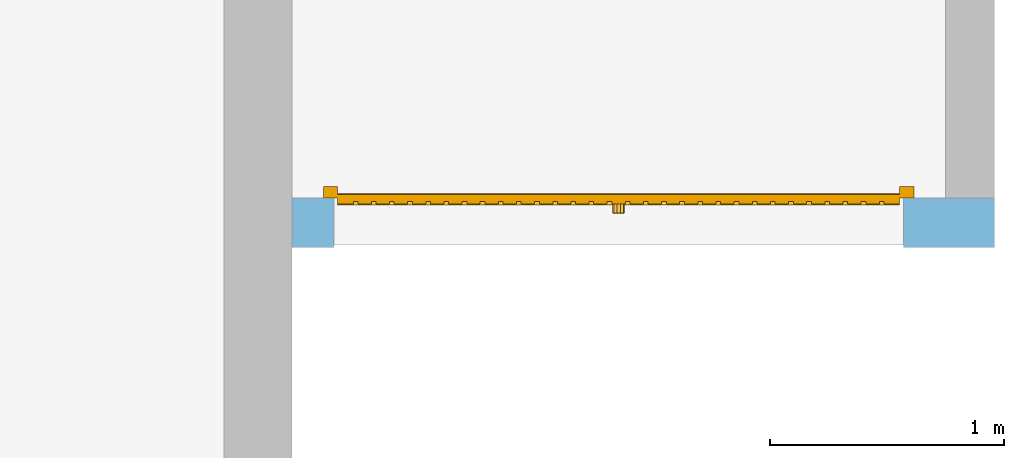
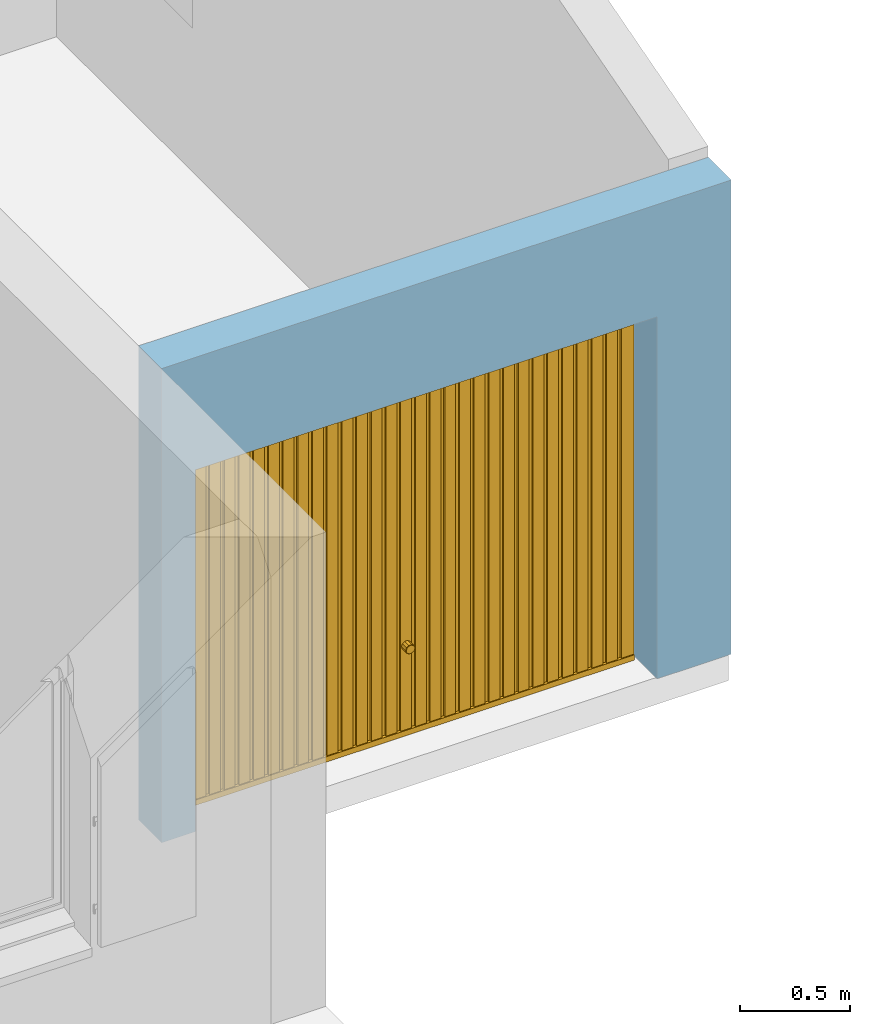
# One storey, part 5 of 6: 1 door, 1 opening, plus 1 element that does not belong to this part.
"""IFC2X3 building model written with IfcOpenShell, lengths in metres."""

import ifcopenshell
import ifcopenshell.guid

model = None  # the IFC model being written
_history = None  # IfcOwnerHistory: only IFC2X3 demands one
_inside = {}  # id of a spatial element -> (the spatial element, [elements in it])
_under = {}  # id of a project, library or spatial element -> (it, [spatial elements below it])
_declared = {}  # id of a project -> (the project, [libraries it declares])
_typed = {}  # id of a type object -> (the type object, [elements of that type])
_made_of = {}  # id of a material, layer set ... -> (it, [elements and type objects made of it])


def new_model(schema):
    """Start an empty IFC model of exactly this schema.

    Asked for "IFC4X3", IfcOpenShell would pick the latest addendum, in which some entities
    have other attributes; the version numbers below select the first issue.
    IFC2X3 requires an IfcOwnerHistory on every rooted entity: one is made here for all.
    """
    global model, _history
    if schema == "IFC4X3":
        model = ifcopenshell.file(schema_version=(4, 3, 0, 0))
    else:
        model = ifcopenshell.file(schema=schema)
    _inside.clear()
    _under.clear()
    _declared.clear()
    _typed.clear()
    _made_of.clear()
    _history = None
    if model.schema == "IFC2X3":
        org = make("IfcOrganization", Name="unknown")
        user = make(
            "IfcPersonAndOrganization",
            ThePerson=make("IfcPerson", FamilyName="unknown"),
            TheOrganization=org,
        )
        app = make(
            "IfcApplication",
            ApplicationDeveloper=org,
            Version="unknown",
            ApplicationFullName="unknown",
            ApplicationIdentifier="unknown",
        )
        _history = make(
            "IfcOwnerHistory",
            OwningUser=user,
            OwningApplication=app,
            ChangeAction="ADDED",
            CreationDate=0,
        )
    return model


def make(cls, **values):
    """One entity of the class cls with the attributes given. An attribute that is None is left unset."""
    return model.create_entity(
        cls, **{name: value for name, value in values.items() if value is not None}
    )


def entity(cls, *values):
    """Any entity or typed value of the class cls, its attributes in the order of the schema. None: left unset."""
    e = model.create_entity(cls)
    for i, value in enumerate(values):
        if value is not None:
            e[i] = value
    return e


def rooted(cls, **values):
    """An entity with a GlobalId (a new one), such as an element, a storey or a relation."""
    return make(cls, GlobalId=ifcopenshell.guid.new(), OwnerHistory=_history, **values)


def si_unit(unit_type, name, prefix=None):
    """IfcSIUnit, for example si_unit("LENGTHUNIT", "METRE", prefix="MILLI")."""
    return make("IfcSIUnit", UnitType=unit_type, Prefix=prefix, Name=name)


def converted_unit(unit_type, name, factor, base, dimensions=None, offset=None):
    """IfcConversionBasedUnit, such as the inch: factor (a typed value) times the base unit."""
    return make(
        "IfcConversionBasedUnit"
        if offset is None
        else "IfcConversionBasedUnitWithOffset",
        ConversionOffset=offset,
        Dimensions=None
        if dimensions is None
        else entity("IfcDimensionalExponents", *dimensions),
        UnitType=unit_type,
        Name=name,
        ConversionFactor=make(
            "IfcMeasureWithUnit", ValueComponent=factor, UnitComponent=base
        ),
    )


def derived_unit(unit_type, elements):
    """IfcDerivedUnit: a product of units, each with its exponent."""
    return make(
        "IfcDerivedUnit",
        Elements=[
            make("IfcDerivedUnitElement", Unit=unit, Exponent=power)
            for unit, power in elements
        ],
        UnitType=unit_type,
    )


def assignment(units):
    """IfcUnitAssignment: the units of a project."""
    return None if units is None else make("IfcUnitAssignment", Units=units)


def point(xyz):
    """IfcCartesianPoint."""
    return None if xyz is None else make("IfcCartesianPoint", Coordinates=xyz)


def direction(xyz):
    """IfcDirection."""
    return None if xyz is None else make("IfcDirection", DirectionRatios=xyz)


def frame(location, z_axis=None, x_axis=None):
    """IfcAxis2Placement3D, a coordinate frame: its origin and axes. An axis left out is left unset."""
    return make(
        "IfcAxis2Placement3D",
        Location=point(location),
        Axis=direction(z_axis),
        RefDirection=direction(x_axis),
    )


def frame_2d(location, x_axis=None):
    """IfcAxis2Placement2D, a coordinate frame in the plane: its origin and x axis."""
    return make(
        "IfcAxis2Placement2D", Location=point(location), RefDirection=direction(x_axis)
    )


def origin():
    """The frame at (0, 0, 0) with its axes left unset."""
    return frame((0.0, 0.0, 0.0))


def place(relative_to, where):
    """IfcLocalPlacement: puts the frame where relative to a parent placement (None: the world)."""
    return make(
        "IfcLocalPlacement", PlacementRelTo=relative_to, RelativePlacement=where
    )


def context(
    kind, dimensions, precision=None, world=None, true_north=None, identifier=None
):
    """IfcGeometricRepresentationContext, for example the 3D "Model" context."""
    return make(
        "IfcGeometricRepresentationContext",
        ContextIdentifier=identifier,
        ContextType=kind,
        CoordinateSpaceDimension=dimensions,
        Precision=precision,
        WorldCoordinateSystem=world,
        TrueNorth=true_north,
    )


def subcontext(parent, identifier, kind, view, scale=None):
    """IfcGeometricRepresentationSubContext, for example "Body" below "Model"."""
    return make(
        "IfcGeometricRepresentationSubContext",
        ContextIdentifier=identifier,
        ContextType=kind,
        ParentContext=parent,
        TargetScale=scale,
        TargetView=view,
    )


def project(units=None, contexts=None):
    """IfcProject with its units and contexts."""
    return rooted(
        "IfcProject",
        Name="project",
        RepresentationContexts=contexts,
        UnitsInContext=assignment(units),
    )


def spatial(cls, under=None, at=None, **own):
    """A site, building, storey or space (cls), placed at a placement, below another one or the project."""
    s = rooted(cls, ObjectPlacement=at, **own)
    if under is not None:
        _under.setdefault(under.id(), (under, []))[1].append(s)
    return s


def profile(cls, at=None, kind="AREA", **sizes):
    """A parametric profile (cls). Its sizes go by their IFC names, for example OverallWidth=200.0."""
    return make(cls, ProfileType=kind, Position=at, **sizes)


def rectangle(**sizes):
    """IfcRectangleProfileDef."""
    return profile("IfcRectangleProfileDef", **sizes)


def extrude(swept, where, along, depth):
    """IfcExtrudedAreaSolid: the profile swept, set in the frame where, extruded along a direction by depth."""
    return make(
        "IfcExtrudedAreaSolid",
        SweptArea=swept,
        Position=where,
        ExtrudedDirection=direction(along),
        Depth=depth,
    )


def faces_of(points, faces, orient=None, outer=None):
    """IfcFace entities. A face is a list of loops; a loop is a list of indices into points, from 0.

    orient and outer hold one flag for each loop. By default every Orientation is true, the
    first loop of a face is its IfcFaceOuterBound and the others are IfcFaceBound.
    """
    made = []
    for i, loops in enumerate(faces):
        bounds = []
        for j, loop in enumerate(loops):
            is_outer = j == 0 if outer is None else outer[i][j]
            bounds.append(
                make(
                    "IfcFaceOuterBound" if is_outer else "IfcFaceBound",
                    Bound=make("IfcPolyLoop", Polygon=[points[k] for k in loop]),
                    Orientation=True if orient is None else orient[i][j],
                )
            )
        made.append(make("IfcFace", Bounds=bounds))
    return made


def faceted_brep(points, faces, orient=None, outer=None, voids=None):
    """IfcFacetedBrep: a solid bounded by flat faces; with voids (closed shells), ...WithVoids."""
    shared = [point(p) for p in points]
    hull = make("IfcClosedShell", CfsFaces=faces_of(shared, faces, orient, outer))
    if voids is None:
        return make("IfcFacetedBrep", Outer=hull)
    return make(
        "IfcFacetedBrepWithVoids",
        Outer=hull,
        Voids=[
            make(cls, CfsFaces=faces_of(shared, fs, o, b)) for cls, fs, o, b in voids
        ],
    )


def shape(context_of_items, identifier, shape_type, items):
    """IfcShapeRepresentation: the items that make up one representation, for example the "Body"."""
    return make(
        "IfcShapeRepresentation",
        ContextOfItems=context_of_items,
        RepresentationIdentifier=identifier,
        RepresentationType=shape_type,
        Items=items,
    )


def source(mapping_origin, context_of_items, identifier, shape_type, items):
    """IfcRepresentationMap: a shape defined once, which mapped items show again and again."""
    return make(
        "IfcRepresentationMap",
        MappingOrigin=mapping_origin,
        MappedRepresentation=shape(context_of_items, identifier, shape_type, items),
    )


def transform(
    local_origin,
    x_axis=None,
    y_axis=None,
    z_axis=None,
    scale=None,
    scale2=None,
    scale3=None,
    uniform=True,
):
    """IfcCartesianTransformationOperator3D, or its non-uniform kind. x_axis, y_axis, z_axis: its Axis1, 2, 3."""
    if uniform:
        return make(
            "IfcCartesianTransformationOperator3D",
            Axis1=direction(x_axis),
            Axis2=direction(y_axis),
            LocalOrigin=point(local_origin),
            Scale=scale,
            Axis3=direction(z_axis),
        )
    return make(
        "IfcCartesianTransformationOperator3DnonUniform",
        Axis1=direction(x_axis),
        Axis2=direction(y_axis),
        LocalOrigin=point(local_origin),
        Scale=scale,
        Axis3=direction(z_axis),
        Scale2=scale2,
        Scale3=scale3,
    )


def mapped(mapping_source, mapping_target):
    """IfcMappedItem: shows the shape of a source again, moved by a transform."""
    return make(
        "IfcMappedItem", MappingSource=mapping_source, MappingTarget=mapping_target
    )


def material(Name=None, Category=None):
    """IfcMaterial."""
    return make("IfcMaterial", Name=Name, Category=Category)


def material_list(materials):
    """IfcMaterialList."""
    return make("IfcMaterialList", Materials=materials)


def layer(
    of_material, thickness, ventilated=None, Name=None, Category=None, Priority=None
):
    """IfcMaterialLayer: one layer of a wall or slab, of a material (None: an air gap)."""
    return make(
        "IfcMaterialLayer",
        Material=of_material,
        LayerThickness=thickness,
        IsVentilated=ventilated,
        Name=Name,
        Category=Category,
        Priority=Priority,
    )


def layer_set(layers, Name=None):
    """IfcMaterialLayerSet."""
    return make("IfcMaterialLayerSet", MaterialLayers=layers, LayerSetName=Name)


def layer_usage(for_layer_set, set_direction, sense, offset, extent=None):
    """IfcMaterialLayerSetUsage: how a layer set lies in its element."""
    return make(
        "IfcMaterialLayerSetUsage",
        ForLayerSet=for_layer_set,
        LayerSetDirection=set_direction,
        DirectionSense=sense,
        OffsetFromReferenceLine=offset,
        ReferenceExtent=extent,
    )


def made_of(thing, what):
    """Note that an element or type object is made of a material, layer set ...; save() writes the relation."""
    if what is not None:
        _made_of.setdefault(what.id(), (what, []))[1].append(thing)
    return thing


def type_object(cls, material=None, **own):
    """A type object (cls), such as IfcWallType, which elements share."""
    return made_of(rooted(cls, **own), material)


def type_shapes(of_type, sources):
    """Give a type object the sources (RepresentationMaps) that its elements show as mapped items."""
    of_type.RepresentationMaps = sources


def element(
    cls,
    number,
    at=None,
    inside=None,
    cuts=None,
    type_object=None,
    material=None,
    context=None,
    identifier="Body",
    shape_type=None,
    held_by="IfcProductDefinitionShape",
    body=None,
    shapes=None,
    **own,
):
    """One element of the class cls, such as IfcWall. Its Tag is "e" and its number.

    at: its placement. inside: the storey or other place that contains it. cuts: it is an
    opening in that element (IfcRelVoidsElement). A single representation is given by context,
    identifier, shape_type and body (its items); several are given by shapes. held_by: the class
    of the entity that holds the representations. save() writes the other relations.
    """
    e = rooted(cls, Tag="e%d" % number, ObjectPlacement=at, **own)
    if body is not None:
        shapes = [shape(context, identifier, shape_type, body)]
    if shapes is not None:
        e.Representation = make(held_by, Representations=shapes)
    if inside is not None:
        _inside.setdefault(inside.id(), (inside, []))[1].append(e)
    if cuts is not None:
        rooted(
            "IfcRelVoidsElement", RelatingBuildingElement=cuts, RelatedOpeningElement=e
        )
    if type_object is not None:
        _typed.setdefault(type_object.id(), (type_object, []))[1].append(e)
    return made_of(e, material)


def fill(opening, filler):
    """IfcRelFillsElement: the door or window that sits in an opening."""
    return rooted(
        "IfcRelFillsElement",
        RelatingOpeningElement=opening,
        RelatedBuildingElement=filler,
    )


def aggregate(whole, parts):
    """IfcRelAggregates: a whole, such as a stair, and the parts it consists of."""
    return rooted("IfcRelAggregates", RelatingObject=whole, RelatedObjects=parts)


def save(model, path):
    """Write the relations noted so far, then the file.

    IfcRelAggregates (storeys below a building ...), IfcRelContainedInSpatialStructure (elements
    in a storey), IfcRelDefinesByType, IfcRelAssociatesMaterial and IfcRelDeclares: one each for
    every whole, place, type object, material and project.
    """
    for whole, parts in _under.values():
        aggregate(whole, parts)
    for where, things in _inside.values():
        rooted(
            "IfcRelContainedInSpatialStructure",
            RelatedElements=things,
            RelatingStructure=where,
        )
    for kind, things in _typed.values():
        rooted("IfcRelDefinesByType", RelatedObjects=things, RelatingType=kind)
    for what, things in _made_of.values():
        rooted("IfcRelAssociatesMaterial", RelatedObjects=things, RelatingMaterial=what)
    for by, libraries in _declared.values():
        rooted("IfcRelDeclares", RelatingContext=by, RelatedDefinitions=libraries)
    model.write(path)


model = new_model("IFC2X3")

# Units and contexts
model_context = context("Model", 3, precision=1e-05, world=origin(), true_north=direction((6.12303176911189e-17, 1.0)))
context_of_model = context(None, 3, precision=1e-05, world=origin(), true_north=direction((6.12303176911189e-17, 1.0)))
body_context = subcontext(model_context, "Body", "Model", "MODEL_VIEW")
ifc_project = project(units=[si_unit("LENGTHUNIT", "METRE"), si_unit("AREAUNIT", "SQUARE_METRE"), si_unit("VOLUMEUNIT", "CUBIC_METRE"), converted_unit("PLANEANGLEUNIT", "DEGREE", entity("IfcRatioMeasure", 0.0174532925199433), si_unit("PLANEANGLEUNIT", "RADIAN"), dimensions=[0, 0, 0, 0, 0, 0, 0]), si_unit("MASSUNIT", "GRAM", prefix="KILO"), si_unit("TIMEUNIT", "SECOND"), si_unit("FREQUENCYUNIT", "HERTZ"), si_unit("THERMODYNAMICTEMPERATUREUNIT", "DEGREE_CELSIUS"), derived_unit("THERMALTRANSMITTANCEUNIT", [(si_unit("MASSUNIT", "GRAM", prefix="KILO"), 1), (si_unit("THERMODYNAMICTEMPERATUREUNIT", "KELVIN"), -1), (si_unit("TIMEUNIT", "SECOND"), -3)]), derived_unit("VOLUMETRICFLOWRATEUNIT", [(si_unit("LENGTHUNIT", "METRE"), 3), (si_unit("TIMEUNIT", "SECOND"), -1)]), si_unit("ELECTRICCURRENTUNIT", "AMPERE"), si_unit("ELECTRICVOLTAGEUNIT", "VOLT"), si_unit("POWERUNIT", "WATT"), si_unit("FORCEUNIT", "NEWTON", prefix="KILO"), si_unit("ILLUMINANCEUNIT", "LUX"), si_unit("LUMINOUSFLUXUNIT", "LUMEN"), si_unit("LUMINOUSINTENSITYUNIT", "CANDELA"), si_unit("PRESSUREUNIT", "PASCAL")], contexts=[model_context, context_of_model])

# Site, building, storey
site_placement = place(None, origin())
site = spatial("IfcSite", under=ifc_project, at=site_placement, Name="Surface", CompositionType="ELEMENT")
building_placement = place(site_placement, origin())
building = spatial("IfcBuilding", under=site, at=building_placement, CompositionType="ELEMENT")
storey_placement = place(building_placement, origin())
storey = spatial("IfcBuildingStorey", under=building, at=storey_placement, Name="Niveau 0", CompositionType="ELEMENT", Elevation=-1.94916083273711e-14)

# Wall, opening, door
ifc_material_1 = material(Name="Maçonnerie - Enduit")
ifc_layer_1 = layer(ifc_material_1, 0.01)
ifc_material_2 = material(Name="Eléments de maçonnerie en béton")
ifc_layer_2 = layer(ifc_material_2, 0.2)
ifc_layer_set = layer_set([ifc_layer_1, ifc_layer_2], Name="Mur de base:Ext. Parpaing 20")
ifc_layer_usage = layer_usage(ifc_layer_set, "AXIS2", "POSITIVE", -0.105)
wall_type = type_object("IfcWallType", Name="Mur de base:Ext. Parpaing 20", PredefinedType="STANDARD", material=ifc_layer_set)
wall_placement = place(storey_placement, frame((-2.79909160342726, -5.75358265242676, 0.0)))
wall = element("IfcWallStandardCase", 1, at=wall_placement, inside=storey, type_object=wall_type, material=ifc_layer_usage, Name="Mur de base:Ext. Parpaing 20", ObjectType="Mur de base:Ext. Parpaing 20", context=body_context, shape_type="SweptSolid", body=[
    extrude(rectangle(XDim=2.99999999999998, YDim=0.21, at=frame_2d((1.49999999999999, 0.0), x_axis=(-1.0, 0.0))), origin(), (0.0, 0.0, 1.0), 2.64000000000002),
])
opening_placement = place(wall_placement, frame((0.179999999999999, -0.405000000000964, 0.0)))
opening = element("IfcOpeningElement", 2, at=opening_placement, cuts=wall, Name="Mur de base:Ext. Parpaing 20", ObjectType="Opening", context=body_context, shape_type="SweptSolid", body=[
    extrude(rectangle(XDim=2.01500000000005, YDim=2.42999999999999, at=frame_2d((0.0, -3.33066907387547e-16), x_axis=(1.0, 0.0))), frame((1.215, 0.0, 1.00750000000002), z_axis=(0.0, 1.0, 0.0), x_axis=(0.0, 0.0, -1.0)), (0.0, 0.0, 1.0), 0.810000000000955),
])
ifc_material_3 = material(Name="Plastique - Noir")
ifc_material_4 = material(Name="Peinture - Grise")
ifc_material_list_1 = material_list([ifc_material_3, ifc_material_4])
ifc_material_list_2 = material_list([ifc_material_3, ifc_material_4])
door_style = type_object("IfcDoorStyle", Name="2.4m x 2m", ConstructionType="NOTDEFINED", OperationType="ROLLINGUP", ParameterTakesPrecedence=False, Sizeable=False, material=ifc_material_list_2)
shared_shape = source(origin(), body_context, "Body", "Brep", [
    faceted_brep([(1.19323441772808, 0.362902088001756, 0.490045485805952), (1.19238728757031, 0.362902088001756, 0.492652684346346), (1.19169426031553, 0.362902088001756, 0.494785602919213), (1.19, 0.362902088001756, 0.500000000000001), (1.19209791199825, 0.365000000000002, 0.500000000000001), (1.19428486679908, 0.365000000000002, 0.493269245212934), (1.19647182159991, 0.365000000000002, 0.486538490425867), (1.19477457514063, 0.362902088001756, 0.485305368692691), (1.23493909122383, 0.365000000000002, 0.490880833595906), (1.23635000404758, 0.365000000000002, 0.495223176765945), (1.23790208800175, 0.365000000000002, 0.500000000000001), (1.24, 0.362902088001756, 0.500000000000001), (1.23761271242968, 0.362902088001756, 0.492652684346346), (1.23522542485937, 0.362902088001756, 0.485305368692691), (1.23352817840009, 0.365000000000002, 0.486538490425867), (1.22897542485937, 0.362902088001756, 0.480764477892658), (1.22272542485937, 0.362902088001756, 0.476223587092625), (1.22207713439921, 0.365000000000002, 0.478218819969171), (1.22780265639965, 0.365000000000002, 0.482378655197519), (1.20792286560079, 0.365000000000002, 0.478218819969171), (1.215, 0.365000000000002, 0.478218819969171), (1.215, 0.362902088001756, 0.476223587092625), (1.20727457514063, 0.362902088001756, 0.476223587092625), (1.20102457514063, 0.362902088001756, 0.480764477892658), (1.20219734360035, 0.365000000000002, 0.482378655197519), (1.23676558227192, 0.362902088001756, 0.509954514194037), (1.23761271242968, 0.362902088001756, 0.507347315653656), (1.23830573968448, 0.362902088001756, 0.505214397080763), (1.23571513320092, 0.365000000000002, 0.506730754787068), (1.23352817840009, 0.365000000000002, 0.513461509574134), (1.23522542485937, 0.362902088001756, 0.514694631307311), (1.19506090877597, 0.365000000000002, 0.5091191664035), (1.19364999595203, 0.365000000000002, 0.504776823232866), (1.19238728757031, 0.362902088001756, 0.507347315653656), (1.19477457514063, 0.362902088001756, 0.514694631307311), (1.19647182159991, 0.365000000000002, 0.513461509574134), (1.20102457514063, 0.362902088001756, 0.519235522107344), (1.20727457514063, 0.362902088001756, 0.523776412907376), (1.20792286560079, 0.365000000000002, 0.521781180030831), (1.20219734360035, 0.365000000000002, 0.517621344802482), (1.22207713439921, 0.365000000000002, 0.521781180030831), (1.215, 0.365000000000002, 0.521781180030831), (1.215, 0.362902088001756, 0.523776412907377), (1.22272542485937, 0.362902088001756, 0.523776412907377), (1.22897542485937, 0.362902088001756, 0.519235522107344), (1.22780265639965, 0.365000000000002, 0.517621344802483), (1.215, 0.365000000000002, 0.500000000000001), (1.215, 0.325000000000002, 0.500000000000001), (1.19477457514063, 0.325000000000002, 0.485305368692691), (1.20102457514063, 0.325000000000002, 0.480764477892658), (1.20727457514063, 0.325000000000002, 0.476223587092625), (1.215, 0.325000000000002, 0.476223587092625), (1.19305454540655, 0.325000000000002, 0.490599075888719), (1.19152727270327, 0.325000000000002, 0.49529953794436), (1.19, 0.325000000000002, 0.500000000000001), (1.22272542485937, 0.325000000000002, 0.476223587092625), (1.22897542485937, 0.325000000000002, 0.480764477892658), (1.23522542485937, 0.325000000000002, 0.485305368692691), (1.23761271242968, 0.325000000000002, 0.492652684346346), (1.24, 0.325000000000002, 0.500000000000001), (1.23847272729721, 0.325000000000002, 0.50470046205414), (1.19238728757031, 0.325000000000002, 0.507347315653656), (1.19477457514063, 0.325000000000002, 0.514694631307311), (1.20102457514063, 0.325000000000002, 0.519235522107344), (1.20727457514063, 0.325000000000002, 0.523776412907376), (1.23694545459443, 0.325000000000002, 0.509400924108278), (1.23522542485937, 0.325000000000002, 0.514694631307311), (1.22897542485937, 0.325000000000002, 0.519235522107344), (1.22272542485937, 0.325000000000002, 0.523776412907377), (1.215, 0.325000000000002, 0.523776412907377)], [[[0, 1, 2, 3, 4, 5, 6, 7]], [[8, 9, 10, 11, 12, 13, 14]], [[13, 15, 16, 17, 18, 14]], [[19, 20, 17, 16, 21, 22]], [[22, 23, 7, 6, 24, 19]], [[25, 26, 27, 11, 10, 28, 29, 30]], [[31, 32, 4, 3, 33, 34, 35]], [[34, 36, 37, 38, 39, 35]], [[40, 41, 38, 37, 42, 43]], [[43, 44, 30, 29, 45, 40]], [[46, 19, 24]], [[46, 24, 6]], [[46, 6, 5]], [[46, 5, 4]], [[46, 4, 32]], [[46, 20, 19]], [[46, 17, 20]], [[46, 18, 17]], [[46, 14, 18]], [[46, 8, 14]], [[46, 9, 8]], [[46, 10, 9]], [[46, 32, 31]], [[46, 31, 35]], [[46, 35, 39]], [[46, 39, 38]], [[46, 38, 41]], [[46, 28, 10]], [[46, 29, 28]], [[46, 45, 29]], [[46, 40, 45]], [[46, 41, 40]], [[47, 48, 49]], [[47, 49, 50]], [[47, 50, 51]], [[47, 52, 48]], [[47, 53, 52]], [[47, 54, 53]], [[47, 51, 55]], [[47, 55, 56]], [[47, 56, 57]], [[47, 57, 58]], [[47, 58, 59]], [[47, 59, 60]], [[47, 61, 54]], [[47, 62, 61]], [[47, 63, 62]], [[47, 64, 63]], [[47, 60, 65]], [[47, 65, 66]], [[47, 66, 67]], [[47, 67, 68]], [[47, 68, 69]], [[47, 69, 64]], [[13, 57, 56, 55, 16, 15]], [[57, 13, 12, 11, 59, 58]], [[52, 53, 54, 3, 2, 1, 0, 7, 48]], [[21, 16, 55, 51, 50, 22]], [[50, 49, 48, 7, 23, 22]], [[62, 63, 64, 37, 36, 34]], [[33, 3, 54, 61, 62, 34]], [[65, 60, 59, 11, 27, 26, 25, 30, 66]], [[42, 37, 64, 69, 68, 43]], [[68, 67, 66, 30, 44, 43]]]),
    faceted_brep([(0.0149999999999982, 0.28000000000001, 2.0), (2.415, 0.279999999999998, 2.0), (2.415, 0.329999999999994, 2.0), (0.0149999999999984, 0.330000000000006, 2.0), (2.415, 0.279999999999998, 0.0), (0.0149999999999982, 0.28000000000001, 0.0), (0.015, 0.329999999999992, 0.0), (2.415, 0.329999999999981, 0.0), (2.34758064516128, 0.315000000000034, 1.97), (2.34758064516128, 0.315000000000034, 0.0300000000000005), (2.32758064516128, 0.315000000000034, 0.0300000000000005), (2.32758064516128, 0.315000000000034, 1.97), (2.32758064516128, 0.324999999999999, 0.0300000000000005), (2.32758064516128, 0.324999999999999, 1.97), (2.27016129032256, 0.324999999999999, 0.0300000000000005), (2.27016129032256, 0.324999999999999, 1.97), (2.27016129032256, 0.315000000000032, 0.0300000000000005), (2.27016129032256, 0.315000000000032, 1.97), (2.25016129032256, 0.315000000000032, 0.0300000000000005), (2.25016129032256, 0.315000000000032, 1.97), (2.25016129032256, 0.324999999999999, 0.0300000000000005), (2.25016129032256, 0.324999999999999, 1.97), (2.19274193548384, 0.324999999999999, 0.0300000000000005), (2.19274193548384, 0.324999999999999, 1.97), (2.19274193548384, 0.31500000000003, 0.0300000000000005), (2.19274193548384, 0.31500000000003, 1.97), (2.17274193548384, 0.31500000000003, 0.0300000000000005), (2.17274193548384, 0.31500000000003, 1.97), (2.17274193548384, 0.324999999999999, 0.0300000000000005), (2.17274193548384, 0.324999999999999, 1.97), (2.11532258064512, 0.324999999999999, 0.0300000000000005), (2.11532258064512, 0.324999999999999, 1.97), (2.11532258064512, 0.315000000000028, 0.0300000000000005), (2.11532258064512, 0.315000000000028, 1.97), (2.09532258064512, 0.315000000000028, 0.0300000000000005), (2.09532258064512, 0.315000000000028, 1.97), (2.09532258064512, 0.325, 0.0300000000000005), (2.09532258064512, 0.325, 1.97), (2.03790322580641, 0.325, 0.0300000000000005), (2.03790322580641, 0.325, 1.97), (2.03790322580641, 0.315000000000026, 0.0300000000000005), (2.03790322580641, 0.315000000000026, 1.97), (2.01790322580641, 0.315000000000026, 0.0300000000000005), (2.01790322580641, 0.315000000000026, 1.97), (2.01790322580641, 0.325, 0.0300000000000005), (2.01790322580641, 0.325, 1.97), (1.96048387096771, 0.325, 0.0300000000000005), (1.96048387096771, 0.325, 1.97), (1.96048387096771, 0.315000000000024, 0.0300000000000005), (1.96048387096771, 0.315000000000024, 1.97), (1.94048387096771, 0.315000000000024, 0.0300000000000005), (1.94048387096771, 0.315000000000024, 1.97), (1.94048387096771, 0.325, 0.0300000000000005), (1.94048387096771, 0.325, 1.97), (1.883064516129, 0.325, 0.0300000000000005), (1.883064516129, 0.325, 1.97), (1.883064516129, 0.315000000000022, 0.0300000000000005), (1.883064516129, 0.315000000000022, 1.97), (1.863064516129, 0.315000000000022, 0.0300000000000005), (1.863064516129, 0.315000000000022, 1.97), (1.863064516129, 0.325, 0.0300000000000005), (1.863064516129, 0.325, 1.97), (1.80564516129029, 0.325, 0.0300000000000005), (1.80564516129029, 0.325, 1.97), (1.80564516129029, 0.31500000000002, 0.0300000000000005), (1.80564516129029, 0.31500000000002, 1.97), (1.78564516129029, 0.31500000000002, 0.0300000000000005), (1.78564516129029, 0.31500000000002, 1.97), (1.78564516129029, 0.325000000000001, 0.0300000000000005), (1.78564516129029, 0.325, 1.97), (1.72822580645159, 0.325000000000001, 0.0300000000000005), (1.72822580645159, 0.325000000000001, 1.97), (1.72822580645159, 0.315000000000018, 0.0300000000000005), (1.72822580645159, 0.315000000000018, 1.97), (1.70822580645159, 0.315000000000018, 0.0300000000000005), (1.70822580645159, 0.315000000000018, 1.97), (1.70822580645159, 0.325000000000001, 0.0300000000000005), (1.70822580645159, 0.325000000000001, 1.97), (1.65080645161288, 0.325000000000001, 0.0300000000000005), (1.65080645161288, 0.325000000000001, 1.97), (1.65080645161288, 0.315000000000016, 0.0300000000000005), (1.65080645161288, 0.315000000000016, 1.97), (1.63080645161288, 0.315000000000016, 0.0300000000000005), (1.63080645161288, 0.315000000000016, 1.97), (1.63080645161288, 0.325000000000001, 0.0300000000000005), (1.63080645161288, 0.325000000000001, 1.97), (1.57338709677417, 0.325000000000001, 0.0300000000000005), (1.57338709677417, 0.325000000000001, 1.97), (1.57338709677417, 0.315000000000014, 0.0300000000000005), (1.57338709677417, 0.315000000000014, 1.97), (1.55338709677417, 0.315000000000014, 0.0300000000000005), (1.55338709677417, 0.315000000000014, 1.97), (1.55338709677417, 0.325000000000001, 0.0300000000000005), (1.55338709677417, 0.325000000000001, 1.97), (1.49596774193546, 0.325000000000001, 0.0300000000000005), (1.49596774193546, 0.325000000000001, 1.97), (1.49596774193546, 0.315000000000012, 0.0300000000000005), (1.49596774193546, 0.315000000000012, 1.97), (1.47596774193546, 0.315000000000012, 0.0300000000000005), (1.47596774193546, 0.315000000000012, 1.97), (1.47596774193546, 0.325000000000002, 0.0300000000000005), (1.47596774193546, 0.325000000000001, 1.97), (1.41854838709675, 0.325000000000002, 0.0300000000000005), (1.41854838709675, 0.325000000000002, 1.97), (1.41854838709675, 0.31500000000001, 0.0300000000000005), (1.41854838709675, 0.31500000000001, 1.97), (1.39854838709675, 0.31500000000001, 0.0300000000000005), (1.39854838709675, 0.31500000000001, 1.97), (1.39854838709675, 0.325000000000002, 0.0300000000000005), (1.39854838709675, 0.325000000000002, 1.97), (1.34112903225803, 0.325000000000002, 0.0300000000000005), (1.34112903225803, 0.325000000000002, 1.97), (1.34112903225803, 0.315000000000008, 0.0300000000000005), (1.34112903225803, 0.315000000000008, 1.97), (1.32112903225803, 0.315000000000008, 0.0300000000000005), (1.32112903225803, 0.315000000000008, 1.97), (1.32112903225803, 0.325000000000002, 0.0300000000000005), (1.32112903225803, 0.325000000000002, 1.97), (1.26370967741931, 0.325000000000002, 0.0300000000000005), (1.26370967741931, 0.325000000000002, 1.97), (1.26370967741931, 0.315000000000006, 0.0300000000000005), (1.26370967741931, 0.315000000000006, 1.97), (1.24370967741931, 0.315000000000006, 0.0300000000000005), (1.24370967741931, 0.315000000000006, 1.97), (1.24370967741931, 0.325000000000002, 0.0300000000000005), (1.24370967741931, 0.325000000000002, 1.97), (1.1862903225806, 0.325000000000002, 0.0300000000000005), (1.1862903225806, 0.325000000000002, 1.97), (1.1862903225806, 0.315000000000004, 0.0300000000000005), (1.1862903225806, 0.315000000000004, 1.97), (1.1662903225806, 0.315000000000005, 0.0300000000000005), (1.1662903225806, 0.315000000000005, 1.97), (1.1662903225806, 0.325000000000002, 0.0300000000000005), (1.1662903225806, 0.325000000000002, 1.97), (1.10887096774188, 0.325000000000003, 0.0300000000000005), (1.10887096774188, 0.325000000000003, 1.97), (1.10887096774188, 0.315000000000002, 0.0300000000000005), (1.10887096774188, 0.315000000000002, 1.97), (1.08887096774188, 0.315000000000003, 0.0300000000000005), (1.08887096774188, 0.315000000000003, 1.97), (1.08887096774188, 0.325000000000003, 0.0300000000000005), (1.08887096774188, 0.325000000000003, 1.97), (1.03145161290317, 0.325000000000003, 0.0300000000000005), (1.03145161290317, 0.325000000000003, 1.97), (1.03145161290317, 0.315, 0.0300000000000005), (1.03145161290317, 0.315, 1.97), (1.01145161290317, 0.315000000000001, 0.0300000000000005), (1.01145161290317, 0.315000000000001, 1.97), (1.01145161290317, 0.325000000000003, 0.0300000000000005), (1.01145161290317, 0.325000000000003, 1.97), (0.954032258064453, 0.325000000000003, 0.0300000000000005), (0.954032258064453, 0.325000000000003, 1.97), (0.954032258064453, 0.314999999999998, 0.0300000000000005), (0.954032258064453, 0.314999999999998, 1.97), (0.934032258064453, 0.314999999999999, 0.0300000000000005), (0.934032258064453, 0.314999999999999, 1.97), (0.934032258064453, 0.325000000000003, 0.0300000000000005), (0.934032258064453, 0.325000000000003, 1.97), (0.876612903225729, 0.325000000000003, 0.0300000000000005), (0.876612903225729, 0.325000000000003, 1.97), (0.876612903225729, 0.314999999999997, 0.0300000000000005), (0.876612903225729, 0.314999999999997, 1.97), (0.856612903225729, 0.314999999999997, 0.0300000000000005), (0.856612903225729, 0.314999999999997, 1.97), (0.856612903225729, 0.325000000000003, 0.0300000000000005), (0.856612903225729, 0.325000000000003, 1.97), (0.799193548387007, 0.325000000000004, 0.0300000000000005), (0.799193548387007, 0.325000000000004, 1.97), (0.799193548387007, 0.314999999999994, 0.0300000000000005), (0.799193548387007, 0.314999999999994, 1.97), (0.779193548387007, 0.314999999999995, 0.0300000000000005), (0.779193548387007, 0.314999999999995, 1.97), (0.779193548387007, 0.325000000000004, 0.0300000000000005), (0.779193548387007, 0.325000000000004, 1.97), (0.721774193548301, 0.325000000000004, 0.0300000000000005), (0.721774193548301, 0.325000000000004, 1.97), (0.721774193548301, 0.314999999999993, 0.0300000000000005), (0.721774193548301, 0.314999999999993, 1.97), (0.701774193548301, 0.314999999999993, 0.0300000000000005), (0.701774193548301, 0.314999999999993, 1.97), (0.701774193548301, 0.325000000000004, 0.0300000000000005), (0.701774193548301, 0.325000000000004, 1.97), (0.644354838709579, 0.325000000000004, 0.0300000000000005), (0.644354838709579, 0.325000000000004, 1.97), (0.644354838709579, 0.314999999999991, 0.0300000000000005), (0.644354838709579, 0.314999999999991, 1.97), (0.624354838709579, 0.314999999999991, 0.0300000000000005), (0.624354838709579, 0.314999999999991, 1.97), (0.624354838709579, 0.325000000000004, 0.0300000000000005), (0.624354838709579, 0.325000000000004, 1.97), (0.566935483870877, 0.325000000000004, 0.0300000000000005), (0.566935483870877, 0.325000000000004, 1.97), (0.566935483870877, 0.314999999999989, 0.0300000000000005), (0.566935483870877, 0.314999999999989, 1.97), (0.546935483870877, 0.314999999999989, 0.0300000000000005), (0.546935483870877, 0.314999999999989, 1.97), (0.546935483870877, 0.325000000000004, 0.0300000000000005), (0.546935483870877, 0.325000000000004, 1.97), (0.489516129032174, 0.325000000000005, 0.0300000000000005), (0.489516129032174, 0.325000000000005, 1.97), (0.489516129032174, 0.314999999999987, 0.0300000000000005), (0.489516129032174, 0.314999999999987, 1.97), (0.469516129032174, 0.314999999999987, 0.0300000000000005), (0.469516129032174, 0.314999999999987, 1.97), (0.469516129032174, 0.325000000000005, 0.0300000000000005), (0.469516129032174, 0.325000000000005, 1.97), (0.412096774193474, 0.325000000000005, 0.0300000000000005), (0.412096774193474, 0.325000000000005, 1.97), (0.412096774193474, 0.314999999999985, 0.0300000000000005), (0.412096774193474, 0.314999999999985, 1.97), (0.392096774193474, 0.314999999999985, 0.0300000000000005), (0.392096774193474, 0.314999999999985, 1.97), (0.392096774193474, 0.325000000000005, 0.0300000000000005), (0.392096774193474, 0.325000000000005, 1.97), (0.334677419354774, 0.325000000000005, 0.0300000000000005), (0.334677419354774, 0.325000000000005, 1.97), (0.334677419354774, 0.314999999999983, 0.0300000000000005), (0.334677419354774, 0.314999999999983, 1.97), (0.314677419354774, 0.314999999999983, 0.0300000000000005), (0.314677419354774, 0.314999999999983, 1.97), (0.314677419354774, 0.325000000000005, 0.0300000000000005), (0.314677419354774, 0.325000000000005, 1.97), (0.257258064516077, 0.325000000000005, 0.0300000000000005), (0.257258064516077, 0.325000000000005, 1.97), (0.257258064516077, 0.314999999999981, 0.0300000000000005), (0.257258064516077, 0.314999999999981, 1.97), (0.237258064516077, 0.314999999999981, 0.0300000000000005), (0.237258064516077, 0.314999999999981, 1.97), (0.237258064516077, 0.325000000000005, 0.0300000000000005), (0.237258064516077, 0.325000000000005, 1.97), (0.179838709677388, 0.325000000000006, 0.0300000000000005), (0.179838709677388, 0.325000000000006, 1.97), (0.179838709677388, 0.314999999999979, 0.0300000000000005), (0.179838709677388, 0.314999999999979, 1.97), (0.159838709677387, 0.314999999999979, 0.0300000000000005), (0.159838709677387, 0.314999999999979, 1.97), (0.159838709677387, 0.325000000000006, 0.0300000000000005), (0.159838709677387, 0.325000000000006, 1.97), (0.102419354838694, 0.325000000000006, 0.0300000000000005), (0.102419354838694, 0.325000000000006, 1.97), (0.102419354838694, 0.314999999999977, 0.0300000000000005), (0.102419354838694, 0.314999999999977, 1.97), (0.0824193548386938, 0.314999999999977, 0.0300000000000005), (0.0824193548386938, 0.314999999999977, 1.97), (0.0824193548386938, 0.325000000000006, 0.0300000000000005), (0.0824193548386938, 0.325000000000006, 1.97), (0.015, 0.325000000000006, 0.0300000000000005), (0.015, 0.325000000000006, 1.97), (0.015, 0.330000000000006, 1.97), (0.015, 0.329999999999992, 0.0300000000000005), (0.0149999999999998, 0.28000000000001, 0.0300000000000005), (0.0149999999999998, 0.285000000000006, 0.0300000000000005), (0.0149999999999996, 0.285000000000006, 1.97), (0.0149999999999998, 0.28000000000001, 1.97), (2.415, 0.284999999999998, 0.0300000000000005), (2.415, 0.284999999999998, 1.97), (2.415, 0.279999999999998, 1.97), (2.415, 0.279999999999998, 0.0300000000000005), (2.415, 0.329999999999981, 0.0300000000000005), (2.415, 0.324999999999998, 0.0300000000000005), (2.415, 0.324999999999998, 1.97), (2.415, 0.329999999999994, 1.97), (2.34758064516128, 0.324999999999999, 0.0300000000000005), (2.34758064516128, 0.324999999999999, 1.97)], [[[0, 1, 2, 3]], [[4, 5, 6, 7]], [[8, 9, 10, 11]], [[11, 10, 12, 13]], [[13, 12, 14, 15]], [[15, 14, 16, 17]], [[17, 16, 18, 19]], [[19, 18, 20, 21]], [[21, 20, 22, 23]], [[23, 22, 24, 25]], [[25, 24, 26, 27]], [[27, 26, 28, 29]], [[29, 28, 30, 31]], [[31, 30, 32, 33]], [[33, 32, 34, 35]], [[35, 34, 36, 37]], [[37, 36, 38, 39]], [[39, 38, 40, 41]], [[41, 40, 42, 43]], [[43, 42, 44, 45]], [[45, 44, 46, 47]], [[47, 46, 48, 49]], [[49, 48, 50, 51]], [[51, 50, 52, 53]], [[53, 52, 54, 55]], [[55, 54, 56, 57]], [[57, 56, 58, 59]], [[59, 58, 60, 61]], [[61, 60, 62, 63]], [[63, 62, 64, 65]], [[65, 64, 66, 67]], [[67, 66, 68, 69]], [[69, 68, 70, 71]], [[71, 70, 72, 73]], [[73, 72, 74, 75]], [[75, 74, 76, 77]], [[77, 76, 78, 79]], [[79, 78, 80, 81]], [[81, 80, 82, 83]], [[83, 82, 84, 85]], [[85, 84, 86, 87]], [[87, 86, 88, 89]], [[89, 88, 90, 91]], [[91, 90, 92, 93]], [[93, 92, 94, 95]], [[95, 94, 96, 97]], [[97, 96, 98, 99]], [[99, 98, 100, 101]], [[101, 100, 102, 103]], [[103, 102, 104, 105]], [[105, 104, 106, 107]], [[107, 106, 108, 109]], [[109, 108, 110, 111]], [[111, 110, 112, 113]], [[113, 112, 114, 115]], [[115, 114, 116, 117]], [[117, 116, 118, 119]], [[119, 118, 120, 121]], [[121, 120, 122, 123]], [[123, 122, 124, 125]], [[125, 124, 126, 127]], [[127, 126, 128, 129]], [[129, 128, 130, 131]], [[131, 130, 132, 133]], [[133, 132, 134, 135]], [[135, 134, 136, 137]], [[137, 136, 138, 139]], [[139, 138, 140, 141]], [[141, 140, 142, 143]], [[143, 142, 144, 145]], [[145, 144, 146, 147]], [[147, 146, 148, 149]], [[149, 148, 150, 151]], [[151, 150, 152, 153]], [[153, 152, 154, 155]], [[155, 154, 156, 157]], [[157, 156, 158, 159]], [[159, 158, 160, 161]], [[161, 160, 162, 163]], [[163, 162, 164, 165]], [[165, 164, 166, 167]], [[167, 166, 168, 169]], [[169, 168, 170, 171]], [[171, 170, 172, 173]], [[173, 172, 174, 175]], [[175, 174, 176, 177]], [[177, 176, 178, 179]], [[179, 178, 180, 181]], [[181, 180, 182, 183]], [[183, 182, 184, 185]], [[185, 184, 186, 187]], [[187, 186, 188, 189]], [[189, 188, 190, 191]], [[191, 190, 192, 193]], [[193, 192, 194, 195]], [[195, 194, 196, 197]], [[197, 196, 198, 199]], [[199, 198, 200, 201]], [[201, 200, 202, 203]], [[203, 202, 204, 205]], [[205, 204, 206, 207]], [[207, 206, 208, 209]], [[209, 208, 210, 211]], [[211, 210, 212, 213]], [[213, 212, 214, 215]], [[215, 214, 216, 217]], [[217, 216, 218, 219]], [[219, 218, 220, 221]], [[221, 220, 222, 223]], [[223, 222, 224, 225]], [[225, 224, 226, 227]], [[227, 226, 228, 229]], [[229, 228, 230, 231]], [[231, 230, 232, 233]], [[233, 232, 234, 235]], [[235, 234, 236, 237]], [[237, 236, 238, 239]], [[239, 238, 240, 241]], [[241, 240, 242, 243]], [[243, 242, 244, 245]], [[245, 244, 246, 247]], [[0, 3, 248, 247, 246, 249, 6, 5, 250, 251, 252, 253]], [[252, 251, 254, 255]], [[2, 1, 256, 255, 254, 257, 4, 7, 258, 259, 260, 261]], [[260, 259, 262, 263]], [[9, 8, 263, 262]], [[256, 253, 252, 255]], [[2, 261, 248, 3]], [[256, 1, 0, 253]], [[4, 257, 250, 5]], [[258, 7, 6, 249]], [[250, 257, 254, 251]], [[258, 249, 246, 244, 242, 240, 238, 236, 234, 232, 230, 228, 226, 224, 222, 220, 218, 216, 214, 212, 210, 208, 206, 204, 202, 200, 198, 196, 194, 192, 190, 188, 186, 184, 182, 180, 178, 176, 174, 172, 170, 168, 166, 164, 162, 160, 158, 156, 154, 152, 150, 148, 146, 144, 142, 140, 138, 136, 134, 132, 130, 128, 126, 124, 122, 120, 118, 116, 114, 112, 110, 108, 106, 104, 102, 100, 98, 96, 94, 92, 90, 88, 86, 84, 82, 80, 78, 76, 74, 72, 70, 68, 66, 64, 62, 60, 58, 56, 54, 52, 50, 48, 46, 44, 42, 40, 38, 36, 34, 32, 30, 28, 26, 24, 22, 20, 18, 16, 14, 12, 10, 9, 262, 259]], [[248, 261, 260, 263, 8, 11, 13, 15, 17, 19, 21, 23, 25, 27, 29, 31, 33, 35, 37, 39, 41, 43, 45, 47, 49, 51, 53, 55, 57, 59, 61, 63, 65, 67, 69, 71, 73, 75, 77, 79, 81, 83, 85, 87, 89, 91, 93, 95, 97, 99, 101, 103, 105, 107, 109, 111, 113, 115, 117, 119, 121, 123, 125, 127, 129, 131, 133, 135, 137, 139, 141, 143, 145, 147, 149, 151, 153, 155, 157, 159, 161, 163, 165, 167, 169, 171, 173, 175, 177, 179, 181, 183, 185, 187, 189, 191, 193, 195, 197, 199, 201, 203, 205, 207, 209, 211, 213, 215, 217, 219, 221, 223, 225, 227, 229, 231, 233, 235, 237, 239, 241, 243, 245, 247]]]),
    faceted_brep([(0.0149999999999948, 0.25, 0.0), (-0.0450000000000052, 0.25, 0.0), (-0.0450000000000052, 0.3, 0.0), (0.0149999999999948, 0.3, 0.0), (0.0149999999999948, 0.25, 2.0), (2.415, 0.25, 2.0), (2.415, 0.25, 0.0), (2.475, 0.25, 0.0), (2.475, 0.25, 2.06000000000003), (-0.0450000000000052, 0.25, 2.06000000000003), (-0.0450000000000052, 0.3, 2.06000000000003), (2.475, 0.3, 2.06000000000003), (2.475, 0.3, 0.0), (2.415, 0.3, 0.0), (2.415, 0.3, 2.0), (0.014999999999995, 0.3, 2.0)], [[[0, 1, 2, 3]], [[1, 0, 4, 5, 6, 7, 8, 9]], [[2, 1, 9, 10]], [[3, 2, 10, 11, 12, 13, 14, 15]], [[0, 3, 15, 4]], [[5, 14, 13, 6]], [[6, 13, 12, 7]], [[11, 8, 7, 12]], [[10, 9, 8, 11]], [[4, 15, 14, 5]]]),
])
type_shapes(door_style, [shared_shape])
door_placement = place(storey_placement, frame((-0.189091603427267, -5.34858265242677, 0.0), z_axis=(0.0, 0.0, 1.0), x_axis=(-1.0, 0.0, 0.0)))
door = element("IfcDoor", 3, at=door_placement, inside=storey, type_object=door_style, material=ifc_material_list_1, Name="Garage basculante:2.4m x 2m", ObjectType="2.4m x 2m", OverallHeight=2.42999999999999, OverallWidth=2.01500000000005, context=body_context, shape_type="MappedRepresentation", body=[
    mapped(shared_shape, transform((0.0, 0.0, 0.0), scale=1.0)),
])
fill(opening, door)

save(model, "model.ifc")
